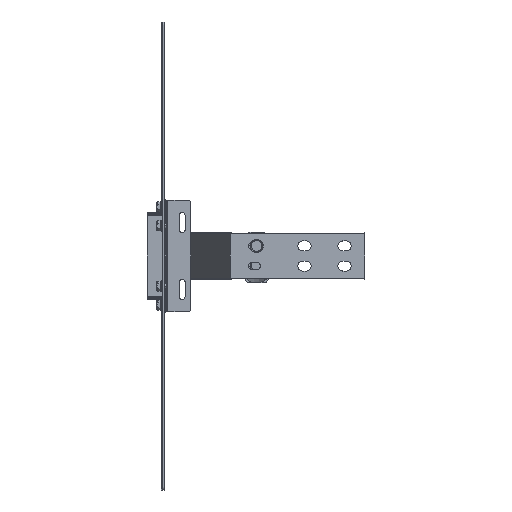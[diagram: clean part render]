
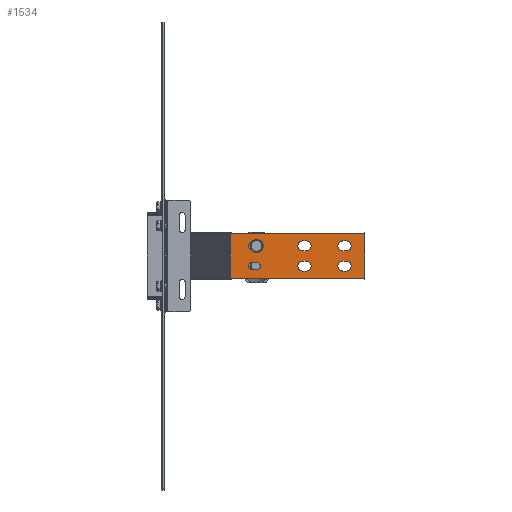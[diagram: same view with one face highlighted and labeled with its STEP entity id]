
A CAD part, front view. The second image highlights one B-rep face of the part: STEP entity #1534.
In plain terms, the highlighted planar face has unit normal (0, -1, 0).
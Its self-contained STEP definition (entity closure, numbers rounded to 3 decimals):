
#1290=AXIS2_PLACEMENT_3D('Circle Axis2P3D',#1288,#1289,$) ;
#1310=AXIS2_PLACEMENT_3D('Plane Axis2P3D',#1307,#1308,#1309) ;
#1348=AXIS2_PLACEMENT_3D('Circle Axis2P3D',#1346,#1347,$) ;
#1366=AXIS2_PLACEMENT_3D('Circle Axis2P3D',#1364,#1365,$) ;
#1382=AXIS2_PLACEMENT_3D('Circle Axis2P3D',#1380,#1381,$) ;
#1400=AXIS2_PLACEMENT_3D('Circle Axis2P3D',#1398,#1399,$) ;
#1416=AXIS2_PLACEMENT_3D('Circle Axis2P3D',#1414,#1415,$) ;
#1443=AXIS2_PLACEMENT_3D('Circle Axis2P3D',#1441,#1442,$) ;
#1457=AXIS2_PLACEMENT_3D('Circle Axis2P3D',#1455,#1456,$) ;
#1468=AXIS2_PLACEMENT_3D('Circle Axis2P3D',#1466,#1467,$) ;
#1484=AXIS2_PLACEMENT_3D('Circle Axis2P3D',#1482,#1483,$) ;
#1502=AXIS2_PLACEMENT_3D('Circle Axis2P3D',#1500,#1501,$) ;
#1518=AXIS2_PLACEMENT_3D('Circle Axis2P3D',#1516,#1517,$) ;
#1254=CARTESIAN_POINT('Vertex',(212.5,-216.65,22.5)) ;
#1257=CARTESIAN_POINT('Line Origine',(210.,-216.65,22.5)) ;
#1261=CARTESIAN_POINT('Vertex',(207.5,-216.65,22.5)) ;
#1288=CARTESIAN_POINT('Axis2P3D Location',(207.5,-216.65,15.)) ;
#1292=CARTESIAN_POINT('Vertex',(207.5,-216.65,7.5)) ;
#1307=CARTESIAN_POINT('Axis2P3D Location',(300.,-216.65,-33.35)) ;
#1312=CARTESIAN_POINT('Line Origine',(199.457,-216.65,-33.35)) ;
#1316=CARTESIAN_POINT('Vertex',(300.,-216.65,-33.35)) ;
#1318=CARTESIAN_POINT('Vertex',(98.914,-216.65,-33.35)) ;
#1321=CARTESIAN_POINT('Line Origine',(300.,-216.65,0.)) ;
#1325=CARTESIAN_POINT('Vertex',(300.,-216.65,33.35)) ;
#1328=CARTESIAN_POINT('Line Origine',(199.457,-216.65,33.35)) ;
#1332=CARTESIAN_POINT('Vertex',(98.914,-216.65,33.35)) ;
#1335=CARTESIAN_POINT('Line Origine',(98.914,-216.65,0.)) ;
#1346=CARTESIAN_POINT('Axis2P3D Location',(212.5,-216.65,15.)) ;
#1350=CARTESIAN_POINT('Vertex',(212.5,-216.65,7.5)) ;
#1353=CARTESIAN_POINT('Line Origine',(210.,-216.65,7.5)) ;
#1364=CARTESIAN_POINT('Axis2P3D Location',(272.5,-216.65,15.)) ;
#1368=CARTESIAN_POINT('Vertex',(272.5,-216.65,7.5)) ;
#1370=CARTESIAN_POINT('Vertex',(272.5,-216.65,22.5)) ;
#1373=CARTESIAN_POINT('Line Origine',(270.,-216.65,7.5)) ;
#1377=CARTESIAN_POINT('Vertex',(267.5,-216.65,7.5)) ;
#1380=CARTESIAN_POINT('Axis2P3D Location',(267.5,-216.65,15.)) ;
#1384=CARTESIAN_POINT('Vertex',(267.5,-216.65,22.5)) ;
#1387=CARTESIAN_POINT('Line Origine',(270.,-216.65,22.5)) ;
#1398=CARTESIAN_POINT('Axis2P3D Location',(207.5,-216.65,-15.)) ;
#1402=CARTESIAN_POINT('Vertex',(207.5,-216.65,-7.5)) ;
#1404=CARTESIAN_POINT('Vertex',(207.5,-216.65,-22.5)) ;
#1407=CARTESIAN_POINT('Line Origine',(210.,-216.65,-7.5)) ;
#1411=CARTESIAN_POINT('Vertex',(212.5,-216.65,-7.5)) ;
#1414=CARTESIAN_POINT('Axis2P3D Location',(212.5,-216.65,-15.)) ;
#1418=CARTESIAN_POINT('Vertex',(212.5,-216.65,-22.5)) ;
#1421=CARTESIAN_POINT('Line Origine',(210.,-216.65,-22.5)) ;
#1432=CARTESIAN_POINT('Line Origine',(270.,-216.65,-7.5)) ;
#1436=CARTESIAN_POINT('Vertex',(272.5,-216.65,-7.5)) ;
#1438=CARTESIAN_POINT('Vertex',(267.5,-216.65,-7.5)) ;
#1441=CARTESIAN_POINT('Axis2P3D Location',(272.5,-216.65,-15.)) ;
#1445=CARTESIAN_POINT('Vertex',(272.5,-216.65,-22.5)) ;
#1448=CARTESIAN_POINT('Line Origine',(270.,-216.65,-22.5)) ;
#1452=CARTESIAN_POINT('Vertex',(267.5,-216.65,-22.5)) ;
#1455=CARTESIAN_POINT('Axis2P3D Location',(267.5,-216.65,-15.)) ;
#1466=CARTESIAN_POINT('Axis2P3D Location',(138.5,-216.65,15.)) ;
#1470=CARTESIAN_POINT('Vertex',(138.5,-216.65,9.5)) ;
#1472=CARTESIAN_POINT('Vertex',(138.5,-216.65,20.5)) ;
#1475=CARTESIAN_POINT('Line Origine',(135.,-216.65,9.5)) ;
#1479=CARTESIAN_POINT('Vertex',(131.5,-216.65,9.5)) ;
#1482=CARTESIAN_POINT('Axis2P3D Location',(131.5,-216.65,15.)) ;
#1486=CARTESIAN_POINT('Vertex',(131.5,-216.65,20.5)) ;
#1489=CARTESIAN_POINT('Line Origine',(135.,-216.65,20.5)) ;
#1500=CARTESIAN_POINT('Axis2P3D Location',(131.5,-216.65,-15.)) ;
#1504=CARTESIAN_POINT('Vertex',(131.5,-216.65,-9.5)) ;
#1506=CARTESIAN_POINT('Vertex',(131.5,-216.65,-20.5)) ;
#1509=CARTESIAN_POINT('Line Origine',(135.,-216.65,-9.5)) ;
#1513=CARTESIAN_POINT('Vertex',(138.5,-216.65,-9.5)) ;
#1516=CARTESIAN_POINT('Axis2P3D Location',(138.5,-216.65,-15.)) ;
#1520=CARTESIAN_POINT('Vertex',(138.5,-216.65,-20.5)) ;
#1523=CARTESIAN_POINT('Line Origine',(135.,-216.65,-20.5)) ;
#1258=DIRECTION('Vector Direction',(1.,0.,0.)) ;
#1289=DIRECTION('Axis2P3D Direction',(0.,-1.,0.)) ;
#1308=DIRECTION('Axis2P3D Direction',(0.,-1.,0.)) ;
#1309=DIRECTION('Axis2P3D XDirection',(0.,0.,1.)) ;
#1313=DIRECTION('Vector Direction',(-1.,0.,0.)) ;
#1322=DIRECTION('Vector Direction',(0.,0.,1.)) ;
#1329=DIRECTION('Vector Direction',(-1.,0.,0.)) ;
#1336=DIRECTION('Vector Direction',(0.,0.,1.)) ;
#1347=DIRECTION('Axis2P3D Direction',(0.,-1.,0.)) ;
#1354=DIRECTION('Vector Direction',(-1.,0.,0.)) ;
#1365=DIRECTION('Axis2P3D Direction',(0.,-1.,0.)) ;
#1374=DIRECTION('Vector Direction',(1.,0.,0.)) ;
#1381=DIRECTION('Axis2P3D Direction',(0.,-1.,0.)) ;
#1388=DIRECTION('Vector Direction',(-1.,0.,0.)) ;
#1399=DIRECTION('Axis2P3D Direction',(0.,-1.,0.)) ;
#1408=DIRECTION('Vector Direction',(-1.,0.,0.)) ;
#1415=DIRECTION('Axis2P3D Direction',(0.,-1.,0.)) ;
#1422=DIRECTION('Vector Direction',(1.,0.,0.)) ;
#1433=DIRECTION('Vector Direction',(1.,0.,0.)) ;
#1442=DIRECTION('Axis2P3D Direction',(0.,-1.,0.)) ;
#1449=DIRECTION('Vector Direction',(-1.,0.,0.)) ;
#1456=DIRECTION('Axis2P3D Direction',(0.,-1.,0.)) ;
#1467=DIRECTION('Axis2P3D Direction',(0.,-1.,0.)) ;
#1476=DIRECTION('Vector Direction',(-1.,0.,0.)) ;
#1483=DIRECTION('Axis2P3D Direction',(0.,-1.,0.)) ;
#1490=DIRECTION('Vector Direction',(1.,0.,0.)) ;
#1501=DIRECTION('Axis2P3D Direction',(0.,-1.,0.)) ;
#1510=DIRECTION('Vector Direction',(-1.,0.,0.)) ;
#1517=DIRECTION('Axis2P3D Direction',(0.,-1.,0.)) ;
#1524=DIRECTION('Vector Direction',(1.,0.,0.)) ;
#1259=VECTOR('Line Direction',#1258,1.) ;
#1314=VECTOR('Line Direction',#1313,1.) ;
#1323=VECTOR('Line Direction',#1322,1.) ;
#1330=VECTOR('Line Direction',#1329,1.) ;
#1337=VECTOR('Line Direction',#1336,1.) ;
#1355=VECTOR('Line Direction',#1354,1.) ;
#1375=VECTOR('Line Direction',#1374,1.) ;
#1389=VECTOR('Line Direction',#1388,1.) ;
#1409=VECTOR('Line Direction',#1408,1.) ;
#1423=VECTOR('Line Direction',#1422,1.) ;
#1434=VECTOR('Line Direction',#1433,1.) ;
#1450=VECTOR('Line Direction',#1449,1.) ;
#1477=VECTOR('Line Direction',#1476,1.) ;
#1491=VECTOR('Line Direction',#1490,1.) ;
#1511=VECTOR('Line Direction',#1510,1.) ;
#1525=VECTOR('Line Direction',#1524,1.) ;
#1341=ORIENTED_EDGE('',*,*,#1320,.F.) ;
#1342=ORIENTED_EDGE('',*,*,#1327,.F.) ;
#1343=ORIENTED_EDGE('',*,*,#1334,.T.) ;
#1344=ORIENTED_EDGE('',*,*,#1339,.F.) ;
#1359=ORIENTED_EDGE('',*,*,#1352,.F.) ;
#1360=ORIENTED_EDGE('',*,*,#1357,.F.) ;
#1361=ORIENTED_EDGE('',*,*,#1294,.F.) ;
#1362=ORIENTED_EDGE('',*,*,#1263,.F.) ;
#1393=ORIENTED_EDGE('',*,*,#1372,.F.) ;
#1394=ORIENTED_EDGE('',*,*,#1379,.F.) ;
#1395=ORIENTED_EDGE('',*,*,#1386,.F.) ;
#1396=ORIENTED_EDGE('',*,*,#1391,.F.) ;
#1427=ORIENTED_EDGE('',*,*,#1406,.F.) ;
#1428=ORIENTED_EDGE('',*,*,#1413,.F.) ;
#1429=ORIENTED_EDGE('',*,*,#1420,.F.) ;
#1430=ORIENTED_EDGE('',*,*,#1425,.F.) ;
#1461=ORIENTED_EDGE('',*,*,#1440,.F.) ;
#1462=ORIENTED_EDGE('',*,*,#1447,.F.) ;
#1463=ORIENTED_EDGE('',*,*,#1454,.F.) ;
#1464=ORIENTED_EDGE('',*,*,#1459,.F.) ;
#1495=ORIENTED_EDGE('',*,*,#1474,.F.) ;
#1496=ORIENTED_EDGE('',*,*,#1481,.F.) ;
#1497=ORIENTED_EDGE('',*,*,#1488,.F.) ;
#1498=ORIENTED_EDGE('',*,*,#1493,.F.) ;
#1529=ORIENTED_EDGE('',*,*,#1508,.F.) ;
#1530=ORIENTED_EDGE('',*,*,#1515,.F.) ;
#1531=ORIENTED_EDGE('',*,*,#1522,.F.) ;
#1532=ORIENTED_EDGE('',*,*,#1527,.F.) ;
#1363=FACE_BOUND('',#1358,.T.) ;
#1397=FACE_BOUND('',#1392,.T.) ;
#1431=FACE_BOUND('',#1426,.T.) ;
#1465=FACE_BOUND('',#1460,.T.) ;
#1499=FACE_BOUND('',#1494,.T.) ;
#1533=FACE_BOUND('',#1528,.T.) ;
#1534=ADVANCED_FACE('N',(#1345,#1363,#1397,#1431,#1465,#1499,#1533),#1311,.T.) ;
#1291=CIRCLE('generated circle',#1290,7.5) ;
#1349=CIRCLE('generated circle',#1348,7.5) ;
#1367=CIRCLE('generated circle',#1366,7.5) ;
#1383=CIRCLE('generated circle',#1382,7.5) ;
#1401=CIRCLE('generated circle',#1400,7.5) ;
#1417=CIRCLE('generated circle',#1416,7.5) ;
#1444=CIRCLE('generated circle',#1443,7.5) ;
#1458=CIRCLE('generated circle',#1457,7.5) ;
#1469=CIRCLE('generated circle',#1468,5.5) ;
#1485=CIRCLE('generated circle',#1484,5.5) ;
#1503=CIRCLE('generated circle',#1502,5.5) ;
#1519=CIRCLE('generated circle',#1518,5.5) ;
#1263=EDGE_CURVE('',#1255,#1262,#1260,.F.) ;
#1294=EDGE_CURVE('',#1262,#1293,#1291,.T.) ;
#1320=EDGE_CURVE('',#1317,#1319,#1315,.T.) ;
#1327=EDGE_CURVE('',#1326,#1317,#1324,.F.) ;
#1334=EDGE_CURVE('',#1326,#1333,#1331,.T.) ;
#1339=EDGE_CURVE('',#1319,#1333,#1338,.T.) ;
#1352=EDGE_CURVE('',#1351,#1255,#1349,.T.) ;
#1357=EDGE_CURVE('',#1293,#1351,#1356,.F.) ;
#1372=EDGE_CURVE('',#1369,#1371,#1367,.T.) ;
#1379=EDGE_CURVE('',#1378,#1369,#1376,.T.) ;
#1386=EDGE_CURVE('',#1385,#1378,#1383,.T.) ;
#1391=EDGE_CURVE('',#1371,#1385,#1390,.T.) ;
#1406=EDGE_CURVE('',#1403,#1405,#1401,.T.) ;
#1413=EDGE_CURVE('',#1412,#1403,#1410,.T.) ;
#1420=EDGE_CURVE('',#1419,#1412,#1417,.T.) ;
#1425=EDGE_CURVE('',#1405,#1419,#1424,.T.) ;
#1440=EDGE_CURVE('',#1437,#1439,#1435,.F.) ;
#1447=EDGE_CURVE('',#1446,#1437,#1444,.T.) ;
#1454=EDGE_CURVE('',#1453,#1446,#1451,.F.) ;
#1459=EDGE_CURVE('',#1439,#1453,#1458,.T.) ;
#1474=EDGE_CURVE('',#1471,#1473,#1469,.T.) ;
#1481=EDGE_CURVE('',#1480,#1471,#1478,.F.) ;
#1488=EDGE_CURVE('',#1487,#1480,#1485,.T.) ;
#1493=EDGE_CURVE('',#1473,#1487,#1492,.F.) ;
#1508=EDGE_CURVE('',#1505,#1507,#1503,.T.) ;
#1515=EDGE_CURVE('',#1514,#1505,#1512,.T.) ;
#1522=EDGE_CURVE('',#1521,#1514,#1519,.T.) ;
#1527=EDGE_CURVE('',#1507,#1521,#1526,.T.) ;
#1340=EDGE_LOOP('',(#1341,#1342,#1343,#1344)) ;
#1358=EDGE_LOOP('',(#1359,#1360,#1361,#1362)) ;
#1392=EDGE_LOOP('',(#1393,#1394,#1395,#1396)) ;
#1426=EDGE_LOOP('',(#1427,#1428,#1429,#1430)) ;
#1460=EDGE_LOOP('',(#1461,#1462,#1463,#1464)) ;
#1494=EDGE_LOOP('',(#1495,#1496,#1497,#1498)) ;
#1528=EDGE_LOOP('',(#1529,#1530,#1531,#1532)) ;
#1345=FACE_OUTER_BOUND('',#1340,.T.) ;
#1260=LINE('Line',#1257,#1259) ;
#1315=LINE('Line',#1312,#1314) ;
#1324=LINE('Line',#1321,#1323) ;
#1331=LINE('Line',#1328,#1330) ;
#1338=LINE('Line',#1335,#1337) ;
#1356=LINE('Line',#1353,#1355) ;
#1376=LINE('Line',#1373,#1375) ;
#1390=LINE('Line',#1387,#1389) ;
#1410=LINE('Line',#1407,#1409) ;
#1424=LINE('Line',#1421,#1423) ;
#1435=LINE('Line',#1432,#1434) ;
#1451=LINE('Line',#1448,#1450) ;
#1478=LINE('Line',#1475,#1477) ;
#1492=LINE('Line',#1489,#1491) ;
#1512=LINE('Line',#1509,#1511) ;
#1526=LINE('Line',#1523,#1525) ;
#1311=PLANE('',#1310) ;
#1255=VERTEX_POINT('',#1254) ;
#1262=VERTEX_POINT('',#1261) ;
#1293=VERTEX_POINT('',#1292) ;
#1317=VERTEX_POINT('',#1316) ;
#1319=VERTEX_POINT('',#1318) ;
#1326=VERTEX_POINT('',#1325) ;
#1333=VERTEX_POINT('',#1332) ;
#1351=VERTEX_POINT('',#1350) ;
#1369=VERTEX_POINT('',#1368) ;
#1371=VERTEX_POINT('',#1370) ;
#1378=VERTEX_POINT('',#1377) ;
#1385=VERTEX_POINT('',#1384) ;
#1403=VERTEX_POINT('',#1402) ;
#1405=VERTEX_POINT('',#1404) ;
#1412=VERTEX_POINT('',#1411) ;
#1419=VERTEX_POINT('',#1418) ;
#1437=VERTEX_POINT('',#1436) ;
#1439=VERTEX_POINT('',#1438) ;
#1446=VERTEX_POINT('',#1445) ;
#1453=VERTEX_POINT('',#1452) ;
#1471=VERTEX_POINT('',#1470) ;
#1473=VERTEX_POINT('',#1472) ;
#1480=VERTEX_POINT('',#1479) ;
#1487=VERTEX_POINT('',#1486) ;
#1505=VERTEX_POINT('',#1504) ;
#1507=VERTEX_POINT('',#1506) ;
#1514=VERTEX_POINT('',#1513) ;
#1521=VERTEX_POINT('',#1520) ;
